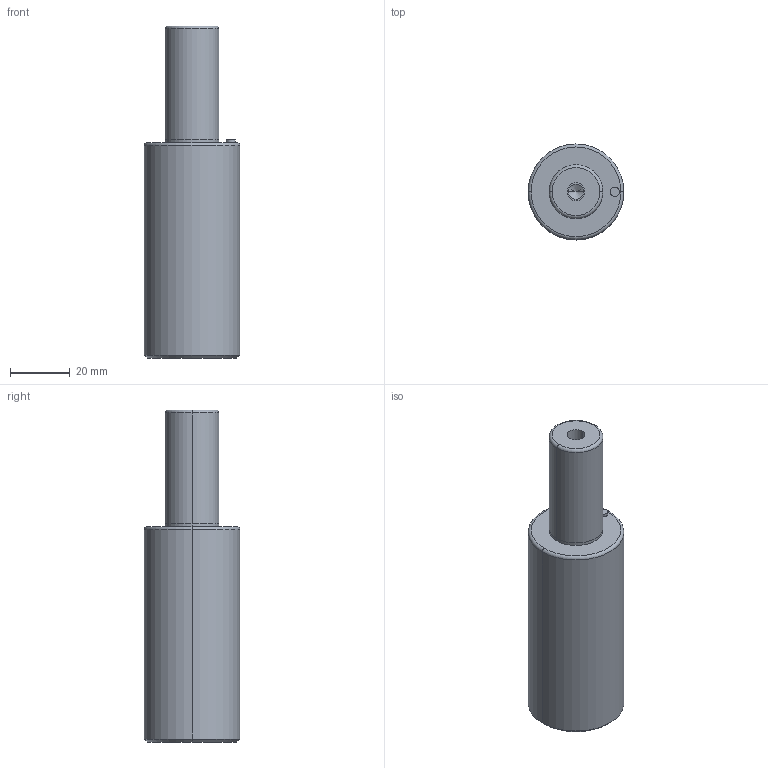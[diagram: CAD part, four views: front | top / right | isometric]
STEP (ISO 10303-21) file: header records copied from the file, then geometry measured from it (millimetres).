
FILE_DESCRIPTION(/* description */ (''),/* implementation_level */ '2;1');
FILE_NAME(/* name */ '3d_gsc32-38_03844_r00.stp',/* time_stamp */ '2011-01-10T14:15:22+09:00',/* author */ ('MISUMI'),/* organization */ (''),/* preprocessor_version */ 'ST-DEVELOPER v11',/* originating_system */ 'UGS - NX 5.0',/* authorisation */ '');
FILE_SCHEMA (('CONFIG_CONTROL_DESIGN'));
Length unit declared in the file: millimetre
Products named in the file (1): 3d_gsc32-38_03844_r00
Bounding box: 32 x 32 x 111 mm (x, y, z)
Volume: 67165.8 mm3; surface area: 11335 mm2
Topology: 1 solids, 1 shells, 32 faces, 66 edges, 38 vertices
Faces by surface type: cylinder 16, cone 6, plane 6, torus 4
Entity records: 912 total; most frequent: DIRECTION 168, CARTESIAN_POINT 133, ORIENTED_EDGE 124, AXIS2_PLACEMENT_3D 73, EDGE_CURVE 62, CIRCLE 40, EDGE_LOOP 38, VERTEX_POINT 38
